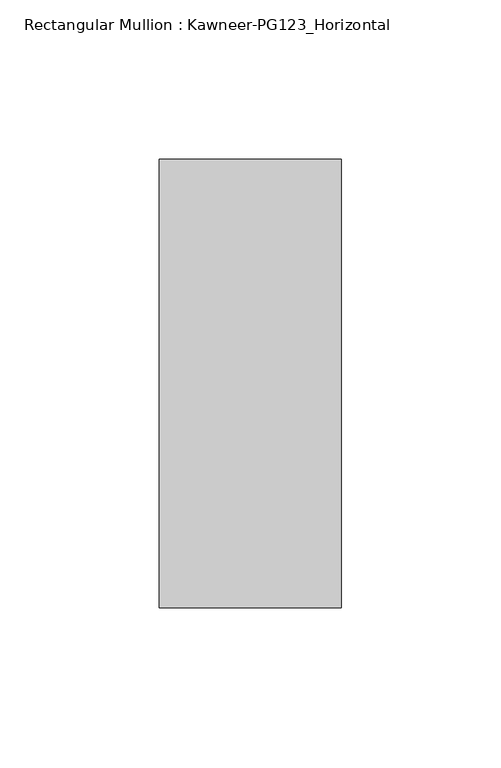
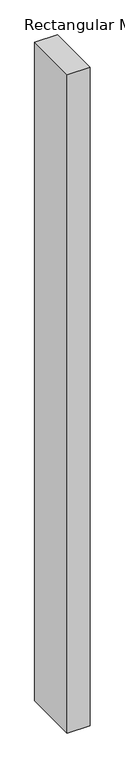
"""IFC4 building model written with IfcOpenShell, lengths in millimetres: member geometry, Rectangular Mullion : Kawneer-PG123_Horizontal."""

from ifc_helpers import new_model, si_unit, frame, origin, place, context, project, spatial, polyline, outline, extrude, source, transform, mapped, element, save


def rectangular_mullion_kawneer_pg123_horizontal_a52f8a9e(model_context):
    return source(origin(), model_context, "Body", "SweptSolid", [
        extrude(outline(polyline([(-28.575, 69.2403998), (28.575, 69.2403998), (28.575, -71.4267552), (-28.575, -71.4267552), (-28.575, 69.2403998)])), frame((0.0, 0.0, -1741.875), z_axis=(0.0, 0.0, 1.0), x_axis=(1.0, 0.0, 0.0)), (0.0, 0.0, 1.0), 1741.875),
    ])


if __name__ == "__main__":
    model = new_model("IFC4")
    model_context = context("Model", 3, world=origin())
    ifc_project = project(units=[si_unit("LENGTHUNIT", "METRE", prefix="MILLI")], contexts=[model_context])
    site = spatial("IfcSite", under=ifc_project)
    building = spatial("IfcBuilding", under=site)
    placement = place(None, origin())
    rectangular_mullion_kawneer_pg123_horizontal_shape = rectangular_mullion_kawneer_pg123_horizontal_a52f8a9e(model_context)
    element("IfcMember", 1, ObjectType="Rectangular Mullion : Kawneer-PG123_Horizontal", at=placement, inside=building, context=model_context, shape_type="MappedRepresentation", body=[
        mapped(rectangular_mullion_kawneer_pg123_horizontal_shape, transform((0.0, 0.0, 0.0), x_axis=(1.0, 0.0, 0.0), y_axis=(0.0, 1.0, 0.0), z_axis=(0.0, 0.0, 1.0))),
    ])
    save(model, "model.ifc")
